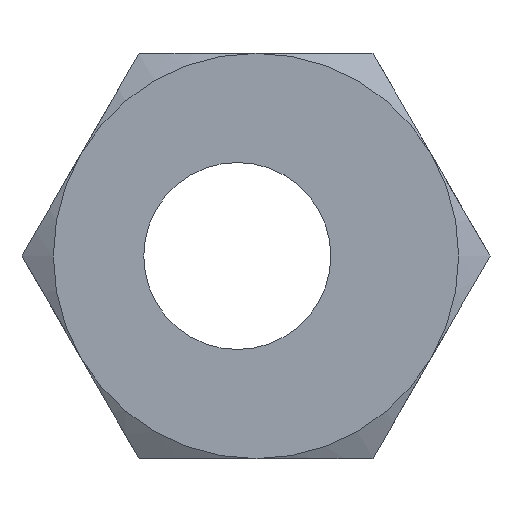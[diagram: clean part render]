
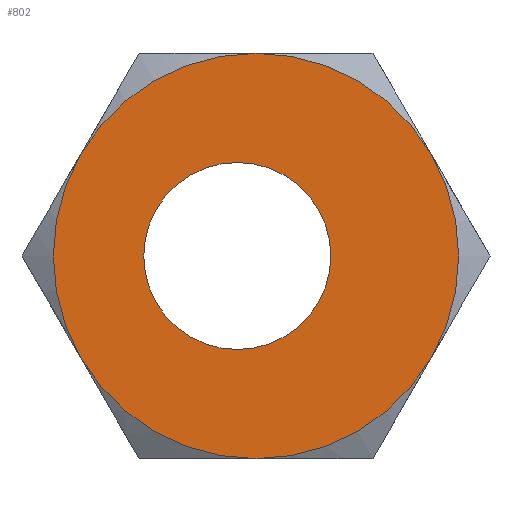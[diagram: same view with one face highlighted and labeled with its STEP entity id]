
A CAD part, left-side view. The second image highlights one B-rep face of the part: STEP entity #802.
In plain terms, the highlighted planar face has unit normal (-1, 0, 0).
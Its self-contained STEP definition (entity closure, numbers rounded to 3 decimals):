
#60=CARTESIAN_POINT('',(0.0,3.6,0.));
#61=VERTEX_POINT('',#60);
#62=CARTESIAN_POINT('',(0.,0.6,0.0));
#63=DIRECTION('',(1.0,0.0,0.0));
#64=DIRECTION('',(0.0,-1.0,0.0));
#65=AXIS2_PLACEMENT_3D('',#62,#63,#64);
#66=CIRCLE('',#65,3.);
#67=EDGE_CURVE('',#61,#61,#66,.T.);
#79=CARTESIAN_POINT('',(0.0,5.629,-3.25));
#80=VERTEX_POINT('',#79);
#94=CARTESIAN_POINT('',(0.0,0.,-6.5));
#95=VERTEX_POINT('',#94);
#109=CARTESIAN_POINT('',(0.,0.0,0.0));
#110=DIRECTION('',(-1.0,0.0,0.0));
#111=DIRECTION('',(0.0,1.0,0.0));
#112=AXIS2_PLACEMENT_3D('',#109,#110,#111);
#113=CIRCLE('',#112,6.5);
#114=EDGE_CURVE('',#80,#95,#113,.T.);
#124=CARTESIAN_POINT('',(0.0,-5.629,-3.25));
#125=VERTEX_POINT('',#124);
#141=CARTESIAN_POINT('',(0.,0.0,0.0));
#142=DIRECTION('',(-1.0,0.0,0.0));
#143=DIRECTION('',(0.0,1.0,0.0));
#144=AXIS2_PLACEMENT_3D('',#141,#142,#143);
#145=CIRCLE('',#144,6.5);
#146=EDGE_CURVE('',#95,#125,#145,.T.);
#169=CARTESIAN_POINT('',(0.0,-5.629,3.25));
#170=VERTEX_POINT('',#169);
#186=CARTESIAN_POINT('',(0.,0.0,0.0));
#187=DIRECTION('',(-1.0,0.0,0.0));
#188=DIRECTION('',(0.0,1.0,0.0));
#189=AXIS2_PLACEMENT_3D('',#186,#187,#188);
#190=CIRCLE('',#189,6.5);
#191=EDGE_CURVE('',#125,#170,#190,.T.);
#216=CARTESIAN_POINT('',(0.0,5.629,3.25));
#217=VERTEX_POINT('',#216);
#244=CARTESIAN_POINT('',(0.,0.0,0.0));
#245=DIRECTION('',(-1.0,0.0,0.0));
#246=DIRECTION('',(0.0,1.0,0.0));
#247=AXIS2_PLACEMENT_3D('',#244,#245,#246);
#248=CIRCLE('',#247,6.5);
#249=EDGE_CURVE('',#217,#80,#248,.T.);
#259=CARTESIAN_POINT('',(0.0,0.,6.5));
#260=VERTEX_POINT('',#259);
#276=CARTESIAN_POINT('',(0.,0.0,0.0));
#277=DIRECTION('',(-1.0,0.0,0.0));
#278=DIRECTION('',(0.0,1.0,0.0));
#279=AXIS2_PLACEMENT_3D('',#276,#277,#278);
#280=CIRCLE('',#279,6.5);
#281=EDGE_CURVE('',#170,#260,#280,.T.);
#319=CARTESIAN_POINT('',(0.,0.0,0.0));
#320=DIRECTION('',(-1.0,0.0,0.0));
#321=DIRECTION('',(0.0,1.0,0.0));
#322=AXIS2_PLACEMENT_3D('',#319,#320,#321);
#323=CIRCLE('',#322,6.5);
#324=EDGE_CURVE('',#260,#217,#323,.T.);
#786=CARTESIAN_POINT('',(0.,3.25,0.0));
#787=DIRECTION('',(-1.0,0.0,0.0));
#788=DIRECTION('',(0.0,0.0,1.0));
#789=AXIS2_PLACEMENT_3D('',#786,#787,#788);
#790=PLANE('',#789);
#791=ORIENTED_EDGE('',*,*,#146,.T.);
#792=ORIENTED_EDGE('',*,*,#191,.T.);
#793=ORIENTED_EDGE('',*,*,#281,.T.);
#794=ORIENTED_EDGE('',*,*,#324,.T.);
#795=ORIENTED_EDGE('',*,*,#249,.T.);
#796=ORIENTED_EDGE('',*,*,#114,.T.);
#797=EDGE_LOOP('',(#791,#792,#793,#794,#795,#796));
#798=FACE_OUTER_BOUND('',#797,.T.);
#799=ORIENTED_EDGE('',*,*,#67,.T.);
#800=EDGE_LOOP('',(#799));
#801=FACE_BOUND('',#800,.T.);
#802=ADVANCED_FACE('',(#798,#801),#790,.T.);
